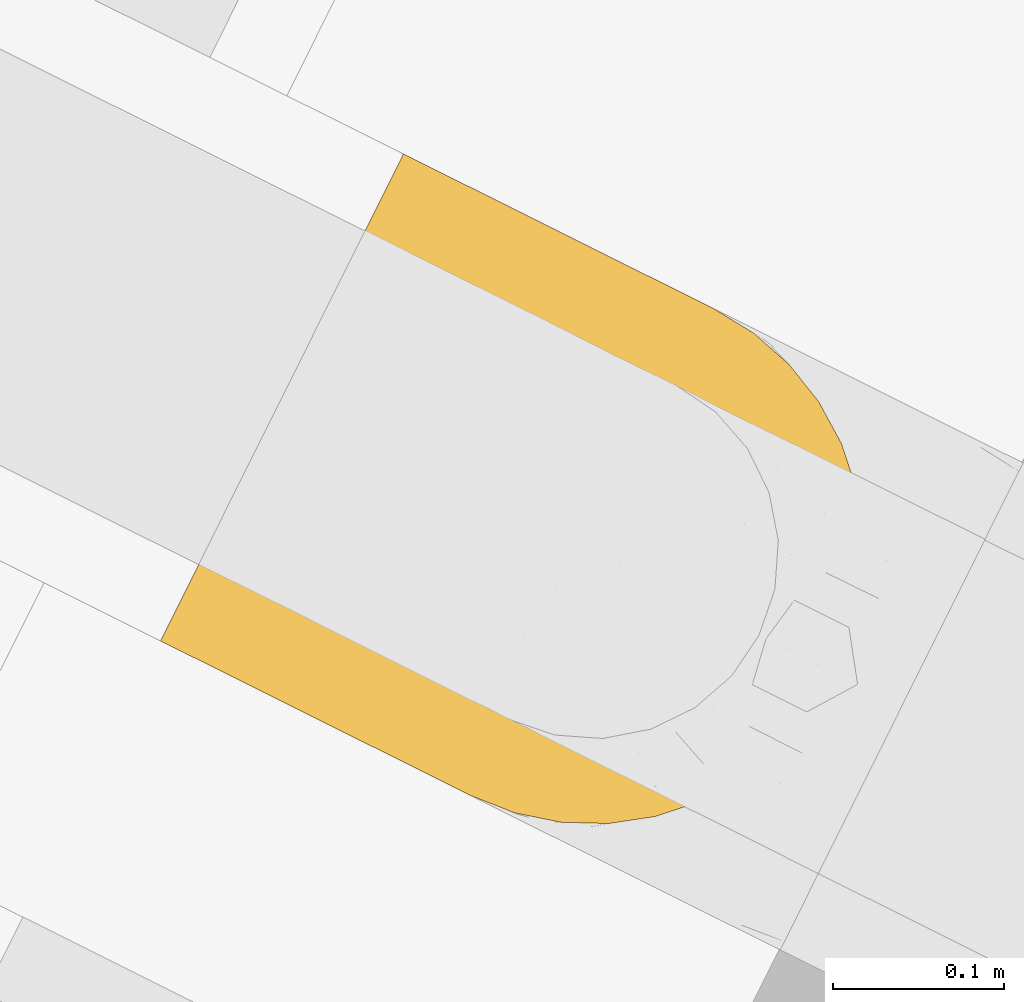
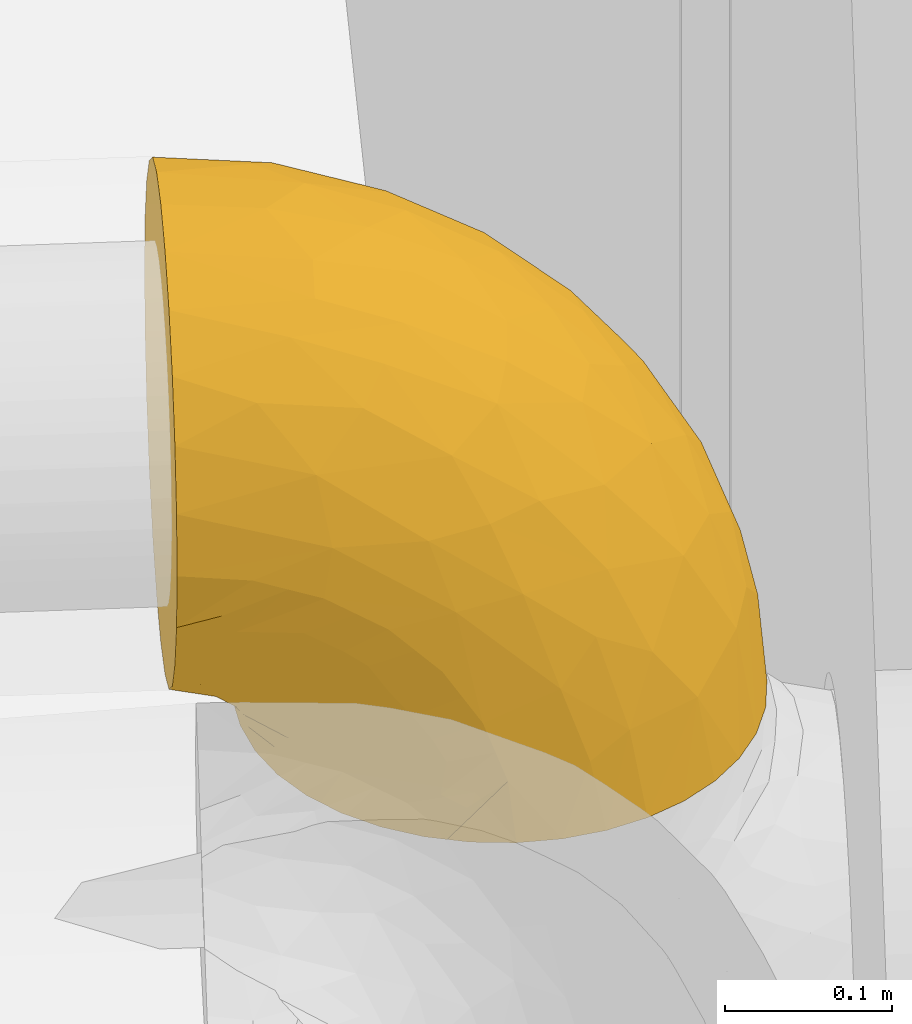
# One storey, part 47 of 91: 1 covering.
"""IFC2X3 building model written with IfcOpenShell, lengths in metres."""

from ifc_helpers import new_model, entity, si_unit, converted_unit, derived_unit, direction, frame, origin, place, context, subcontext, project, spatial, faceted_brep, element, save


model = new_model("IFC2X3")

# Units and contexts
model_context = context("Model", 3, precision=1e-05, world=origin(), true_north=direction((0.894925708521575, 0.446215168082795)))
context_of_model = context(None, 3, precision=1e-05, world=origin(), true_north=direction((0.894925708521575, 0.446215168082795)))
body_context = subcontext(model_context, "Body", "Model", "MODEL_VIEW")
ifc_project = project(units=[si_unit("LENGTHUNIT", "METRE"), si_unit("AREAUNIT", "SQUARE_METRE"), si_unit("VOLUMEUNIT", "CUBIC_METRE"), converted_unit("PLANEANGLEUNIT", "DEGREE", entity("IfcRatioMeasure", 0.0174532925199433), si_unit("PLANEANGLEUNIT", "RADIAN"), dimensions=[0, 0, 0, 0, 0, 0, 0]), si_unit("MASSUNIT", "GRAM", prefix="KILO"), si_unit("TIMEUNIT", "SECOND"), si_unit("FREQUENCYUNIT", "HERTZ"), si_unit("THERMODYNAMICTEMPERATUREUNIT", "DEGREE_CELSIUS"), derived_unit("THERMALTRANSMITTANCEUNIT", [(si_unit("MASSUNIT", "GRAM", prefix="KILO"), 1), (si_unit("THERMODYNAMICTEMPERATUREUNIT", "KELVIN"), -1), (si_unit("TIMEUNIT", "SECOND"), -3)]), derived_unit("VOLUMETRICFLOWRATEUNIT", [(si_unit("LENGTHUNIT", "METRE"), 3), (si_unit("TIMEUNIT", "SECOND"), -1)]), si_unit("ELECTRICCURRENTUNIT", "AMPERE"), si_unit("ELECTRICVOLTAGEUNIT", "VOLT"), si_unit("POWERUNIT", "WATT"), si_unit("FORCEUNIT", "NEWTON", prefix="KILO"), si_unit("ILLUMINANCEUNIT", "LUX"), si_unit("LUMINOUSFLUXUNIT", "LUMEN"), si_unit("LUMINOUSINTENSITYUNIT", "CANDELA"), si_unit("PRESSUREUNIT", "PASCAL")], contexts=[model_context, context_of_model])

# Site, building, storey
site_placement = place(None, frame((218.228324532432, 584.720189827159, 0.0), z_axis=(0.0, 0.0, 1.0), x_axis=(0.446215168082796, 0.894925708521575, 0.0)))
site = spatial("IfcSite", under=ifc_project, at=site_placement, Name="Default", CompositionType="ELEMENT")
building_placement = place(site_placement, origin())
building = spatial("IfcBuilding", under=site, at=building_placement, CompositionType="ELEMENT")
storey_placement = place(building_placement, origin())
storey = spatial("IfcBuildingStorey", under=building, at=storey_placement, Name="0 - Piano Terra", CompositionType="ELEMENT", Elevation=0.0)

# Covering
covering_placement = place(storey_placement, frame((-30.3033657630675, -4.9598908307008, 2.8714047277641)))
element("IfcCovering", 1, at=covering_placement, inside=storey, Name="Isolamento tubazione:Default", ObjectType="Isolamento tubazione:Default", PredefinedType="INSULATION", context=body_context, shape_type="Brep", body=[
    faceted_brep([(0.311074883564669, 0.215710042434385, 0.00159527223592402), (0.318272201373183, 0.18884600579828, 0.00159527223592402), (0.319748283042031, 0.171971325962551, 0.00159527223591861), (0.320695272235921, 0.161145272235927, 0.00159527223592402), (0.318271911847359, 0.133442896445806, 0.00159527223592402), (0.311073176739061, 0.106575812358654, 0.00159527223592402), (0.29931755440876, 0.0813666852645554, 0.00159527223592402), (0.283365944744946, 0.0585864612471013, 0.00159527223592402), (0.263703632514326, 0.0389242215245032, 0.00159527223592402), (0.240919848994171, 0.0229706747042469, 0.00159527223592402), (0.21571004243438, 0.0112156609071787, 0.00159527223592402), (0.188846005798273, 0.00401834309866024, 0.00159527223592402), (0.161145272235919, 0.00159527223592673, 0.00159527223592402), (0.133442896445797, 0.00401863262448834, 0.00159527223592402), (0.106575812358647, 0.0112173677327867, 0.00159527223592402), (0.0813666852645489, 0.0229729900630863, 0.00159527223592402), (0.0585864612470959, 0.038924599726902, 0.00159527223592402), (0.0389242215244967, 0.0585869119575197, 0.00159527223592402), (0.0229706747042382, 0.0813706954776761, 0.00159527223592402), (0.0112156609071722, 0.106580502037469, 0.00159527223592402), (0.00401834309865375, 0.133444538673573, 0.00159527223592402), (0.00159527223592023, 0.161145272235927, 0.00159527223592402), (0.00254231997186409, 0.17197134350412, 0.00159527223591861), (0.0040186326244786, 0.188847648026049, 0.00159527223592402), (0.00761800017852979, 0.202281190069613, 0.00159527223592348), (0.0112173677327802, 0.2157147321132, 0.00159527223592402), (0.0229729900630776, 0.2409238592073, 0.00159527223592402), (0.0389245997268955, 0.263704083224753, 0.00159527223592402), (0.058586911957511, 0.283366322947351, 0.00159527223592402), (0.0813706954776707, 0.299319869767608, 0.00159527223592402), (0.106580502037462, 0.311074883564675, 0.00159527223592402), (0.133444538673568, 0.318272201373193, 0.00159527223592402), (0.161145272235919, 0.320695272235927, 0.00159527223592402), (0.18884764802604, 0.318271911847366, 0.00159527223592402), (0.21571473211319, 0.311073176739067, 0.00159527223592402), (0.240923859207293, 0.299317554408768, 0.00159527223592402), (0.263704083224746, 0.283365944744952, 0.00159527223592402), (0.283366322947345, 0.263703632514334, 0.00159527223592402), (0.299319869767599, 0.240919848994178, 0.00159527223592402), (0.0483263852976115, 0.364145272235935, 0.0917763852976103), (0.0356486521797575, 0.364145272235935, 0.108298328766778), (0.0229709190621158, 0.364145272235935, 0.124820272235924), (0.0150013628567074, 0.364145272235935, 0.144060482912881), (0.00703180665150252, 0.364145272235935, 0.163300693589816), (0.00448125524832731, 0.364145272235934, 0.182674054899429), (0.00303826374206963, 0.364145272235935, 0.193634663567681), (0.00159527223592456, 0.364145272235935, 0.204595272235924), (0.00703180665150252, 0.364145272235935, 0.245889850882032), (0.0229709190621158, 0.364145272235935, 0.284370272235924), (0.0483263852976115, 0.364145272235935, 0.317414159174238), (0.0813702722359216, 0.364145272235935, 0.342769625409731), (0.119850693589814, 0.364145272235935, 0.358708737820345), (0.161145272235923, 0.364145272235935, 0.364145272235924), (0.202439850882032, 0.364145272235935, 0.358708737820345), (0.240920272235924, 0.364145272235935, 0.342769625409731), (0.273964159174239, 0.364145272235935, 0.317414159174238), (0.29931962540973, 0.364145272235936, 0.284370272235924), (0.315258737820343, 0.364145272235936, 0.245889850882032), (0.320695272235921, 0.364145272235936, 0.204595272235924), (0.31925228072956, 0.364145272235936, 0.193634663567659), (0.317809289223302, 0.364145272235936, 0.182674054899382), (0.315258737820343, 0.364145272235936, 0.163300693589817), (0.307289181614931, 0.364145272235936, 0.144060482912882), (0.29931962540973, 0.364145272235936, 0.124820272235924), (0.286641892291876, 0.364145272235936, 0.108298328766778), (0.273964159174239, 0.364145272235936, 0.0917763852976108), (0.240920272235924, 0.364145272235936, 0.0664209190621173), (0.202439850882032, 0.364145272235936, 0.0504818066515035), (0.161145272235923, 0.364145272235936, 0.0450452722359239), (0.119850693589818, 0.364145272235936, 0.0504818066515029), (0.0813702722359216, 0.364145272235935, 0.0664209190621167), (0.0648483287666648, 0.364145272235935, 0.0790986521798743), (0.201172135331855, 0.275645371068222, 0.347913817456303), (0.161145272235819, 0.301189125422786, 0.358637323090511), (0.161145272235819, 0.240145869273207, 0.342280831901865), (0.306467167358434, 0.192702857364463, 0.208704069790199), (0.317175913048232, 0.197037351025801, 0.168703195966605), (0.312260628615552, 0.257674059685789, 0.232411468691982), (0.320695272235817, 0.2375768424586, 0.160307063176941), (0.320695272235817, 0.256821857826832, 0.172399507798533), (0.320695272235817, 0.276066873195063, 0.184491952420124), (0.228888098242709, 0.223051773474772, 0.319112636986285), (0.198715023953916, 0.21516407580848, 0.327193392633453), (0.197144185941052, 0.159526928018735, 0.295886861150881), (0.265288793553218, 0.0926591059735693, 0.178199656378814), (0.279139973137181, 0.144663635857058, 0.221076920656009), (0.251711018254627, 0.130966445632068, 0.241221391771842), (0.227840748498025, 0.305777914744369, 0.344605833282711), (0.283559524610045, 0.314219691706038, 0.302813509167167), (0.309327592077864, 0.149883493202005, 0.152632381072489), (0.161145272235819, 0.182870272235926, 0.315572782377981), (0.161145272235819, 0.131102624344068, 0.279324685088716), (0.188773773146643, 0.109488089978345, 0.256252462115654), (0.161145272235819, 0.0864158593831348, 0.234637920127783), (0.320695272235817, 0.166234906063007, 0.0467670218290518), (0.317175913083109, 0.146967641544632, 0.094783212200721), (0.277616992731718, 0.250140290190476, 0.292067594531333), (0.296288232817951, 0.22901119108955, 0.25570716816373), (0.30429953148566, 0.301075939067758, 0.267671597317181), (0.222697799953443, 0.0236515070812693, 0.0834683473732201), (0.198695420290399, 0.0385683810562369, 0.150634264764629), (0.19067392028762, 0.0156740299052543, 0.0911457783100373), (0.320695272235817, 0.318973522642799, 0.199505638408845), (0.320695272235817, 0.341788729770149, 0.202076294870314), (0.320695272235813, 0.352967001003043, 0.203335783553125), (0.252196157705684, 0.292024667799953, 0.327735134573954), (0.161145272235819, 0.0234597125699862, 0.125594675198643), (0.161145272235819, 0.0501677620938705, 0.182870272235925), (0.320695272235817, 0.297520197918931, 0.191998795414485), (0.301023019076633, 0.0922467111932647, 0.067403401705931), (0.21956288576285, 0.115617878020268, 0.250122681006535), (0.204386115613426, 0.0731547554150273, 0.207684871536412), (0.233310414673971, 0.0846018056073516, 0.204290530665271), (0.282350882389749, 0.0773627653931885, 0.11047740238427), (0.268310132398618, 0.0495812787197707, 0.0665622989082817), (0.289509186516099, 0.114293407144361, 0.163562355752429), (0.239797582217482, 0.0561833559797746, 0.149912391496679), (0.161145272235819, 0.00710322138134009, 0.064551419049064), (0.320695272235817, 0.162404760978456, 0.0127735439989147), (0.320695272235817, 0.163664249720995, 0.023951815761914), (0.320695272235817, 0.181248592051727, 0.0896736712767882), (0.320695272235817, 0.193341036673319, 0.10891868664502), (0.320695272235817, 0.205433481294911, 0.128163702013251), (0.320695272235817, 0.173741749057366, 0.0682203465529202), (0.320695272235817, 0.221505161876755, 0.144235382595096), (0.234514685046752, 0.166460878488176, 0.283951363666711), (0.267559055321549, 0.185436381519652, 0.269306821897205), (0.255020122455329, 0.223925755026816, 0.30254289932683), (0.193767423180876, 0.324911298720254, 0.0271465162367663), (0.317837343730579, 0.337277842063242, 0.172432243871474), (0.302389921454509, 0.237558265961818, 0.0253498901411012), (0.315096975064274, 0.328080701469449, 0.158613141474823), (0.290371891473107, 0.267743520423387, 0.0533645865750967), (0.268216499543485, 0.282779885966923, 0.0251720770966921), (0.272627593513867, 0.287013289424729, 0.045717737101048), (0.315587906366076, 0.270555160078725, 0.134992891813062), (0.31321863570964, 0.258245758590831, 0.114409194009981), (0.302643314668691, 0.285245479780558, 0.104008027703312), (0.314805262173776, 0.210134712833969, 0.0451423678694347), (0.242685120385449, 0.334476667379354, 0.0603938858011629), (0.267865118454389, 0.339736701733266, 0.0823838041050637), (0.26945072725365, 0.319015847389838, 0.0746164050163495), (0.296967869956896, 0.253348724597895, 0.0457848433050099), (0.310493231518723, 0.242127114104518, 0.0833280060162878), (0.315769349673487, 0.217507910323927, 0.0742742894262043), (0.263416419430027, 0.303705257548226, 0.0548255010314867), (0.292249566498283, 0.275276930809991, 0.0698784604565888), (0.246211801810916, 0.30110672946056, 0.0271436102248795), (0.289082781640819, 0.311576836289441, 0.0955577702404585), (0.203370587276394, 0.339341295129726, 0.0440145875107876), (0.224672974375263, 0.319512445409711, 0.0364709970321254), (0.317566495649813, 0.23262403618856, 0.111751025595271), (0.31854887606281, 0.217038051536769, 0.0998764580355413), (0.213089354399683, 0.314843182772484, 0.0185697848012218), (0.317379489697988, 0.196765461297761, 0.0347995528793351), (0.286225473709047, 0.295924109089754, 0.0800249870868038), (0.291795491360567, 0.344962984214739, 0.111352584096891), (0.161145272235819, 0.326516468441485, 0.023320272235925), (0.161145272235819, 0.342420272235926, 0.0392240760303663), (0.291152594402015, 0.329719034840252, 0.106606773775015), (0.317781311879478, 0.29329998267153, 0.159036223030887), (0.314129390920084, 0.289482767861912, 0.14050134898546), (0.305217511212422, 0.297029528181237, 0.118092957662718), (0.3083110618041, 0.315309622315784, 0.13426083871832), (0.309107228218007, 0.255196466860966, 0.0946896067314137), (0.304103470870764, 0.339551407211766, 0.13144064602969), (0.0481611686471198, 0.280281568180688, 0.0352015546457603), (0.030190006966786, 0.274410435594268, 0.0683770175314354), (0.0185577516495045, 0.247884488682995, 0.0628508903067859), (0.130051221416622, 0.323578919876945, 0.0243434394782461), (0.119520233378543, 0.336527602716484, 0.0420410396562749), (0.0579185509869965, 0.343779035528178, 0.0803473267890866), (0.0377646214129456, 0.338896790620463, 0.100255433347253), (0.0138743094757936, 0.267508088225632, 0.10512095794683), (0.00429194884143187, 0.249727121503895, 0.132405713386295), (0.0131660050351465, 0.288664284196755, 0.123461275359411), (0.00537209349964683, 0.223062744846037, 0.0937077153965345), (0.0150970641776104, 0.257122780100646, 0.0899238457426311), (0.00159527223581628, 0.193341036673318, 0.108918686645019), (0.00497002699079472, 0.211214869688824, 0.0766563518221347), (0.00159527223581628, 0.318973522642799, 0.199505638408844), (0.00159527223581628, 0.341788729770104, 0.202076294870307), (0.00159527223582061, 0.352967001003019, 0.203335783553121), (0.0564962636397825, 0.32702504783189, 0.0753443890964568), (0.0378033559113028, 0.320742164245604, 0.0936706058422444), (0.00445320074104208, 0.337277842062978, 0.17243224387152), (0.110600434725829, 0.314621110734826, 0.0163235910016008), (0.078110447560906, 0.301284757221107, 0.0240766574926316), (0.100177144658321, 0.318085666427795, 0.0326633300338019), (0.0143592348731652, 0.316513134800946, 0.133742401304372), (0.0184044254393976, 0.340160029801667, 0.131110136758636), (0.056848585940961, 0.294403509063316, 0.0452142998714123), (0.00159527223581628, 0.297520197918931, 0.191998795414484), (0.0365446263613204, 0.3020611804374, 0.0842148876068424), (0.00719356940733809, 0.328080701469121, 0.158613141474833), (0.00159527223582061, 0.16240476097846, 0.0127735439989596), (0.00159527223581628, 0.163664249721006, 0.0239518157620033), (0.00159527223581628, 0.166234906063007, 0.0467670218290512), (0.0326636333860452, 0.259460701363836, 0.0297424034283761), (0.00538278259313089, 0.237066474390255, 0.112156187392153), (0.00159527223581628, 0.221505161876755, 0.144235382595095), (0.0136433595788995, 0.228265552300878, 0.0434416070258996), (0.0807011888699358, 0.336132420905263, 0.0604863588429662), (0.00159527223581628, 0.181248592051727, 0.0896736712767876), (0.00159527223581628, 0.173741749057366, 0.0682203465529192), (0.00401153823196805, 0.190630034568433, 0.0268111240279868), (0.00708777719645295, 0.206112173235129, 0.0348646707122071), (0.00434202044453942, 0.264351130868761, 0.143549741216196), (0.00159527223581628, 0.276066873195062, 0.184491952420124), (0.0809621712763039, 0.320790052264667, 0.050107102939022), (0.0539826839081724, 0.304186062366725, 0.0615545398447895), (0.0046853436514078, 0.202773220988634, 0.0603958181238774), (0.00426342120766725, 0.288174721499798, 0.15807138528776), (0.00159527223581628, 0.20543348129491, 0.12816370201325), (0.00159527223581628, 0.2375768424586, 0.16030706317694), (0.00159527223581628, 0.256821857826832, 0.172399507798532), (0.00511463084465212, 0.197037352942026, 0.168703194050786), (0.133516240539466, 0.10948815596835, 0.256252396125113), (0.117903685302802, 0.0731551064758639, 0.207685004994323), (0.0185835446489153, 0.279870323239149, 0.262986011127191), (0.0446735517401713, 0.250140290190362, 0.292067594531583), (0.0387310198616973, 0.314219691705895, 0.302813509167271), (0.00511463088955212, 0.270957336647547, 0.218772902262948), (0.0539801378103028, 0.0495818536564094, 0.0665638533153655), (0.0212654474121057, 0.0922510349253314, 0.067405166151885), (0.00960242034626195, 0.13430515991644, 0.107126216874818), (0.0705791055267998, 0.104351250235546, 0.212070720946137), (0.0431505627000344, 0.144663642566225, 0.221076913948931), (0.0425043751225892, 0.104304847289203, 0.170072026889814), (0.102726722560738, 0.115618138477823, 0.250122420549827), (0.0713886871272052, 0.168429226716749, 0.273365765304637), (0.125145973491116, 0.159526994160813, 0.295886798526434), (0.0946001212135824, 0.276041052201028, 0.338268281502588), (0.070094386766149, 0.292024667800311, 0.327735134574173), (0.131839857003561, 0.214728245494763, 0.328942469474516), (0.0972173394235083, 0.161374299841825, 0.285870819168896), (0.093402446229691, 0.223051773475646, 0.319112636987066), (0.121118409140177, 0.27564537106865, 0.347913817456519), (0.0255526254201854, 0.175378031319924, 0.217897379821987), (0.00962930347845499, 0.116541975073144, 0.0535290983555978), (0.0673614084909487, 0.23633617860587, 0.308091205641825), (0.0824907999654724, 0.0561838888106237, 0.149910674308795), (0.0995884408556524, 0.0236528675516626, 0.0834663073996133), (0.123593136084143, 0.0385687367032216, 0.150633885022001), (0.0129629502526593, 0.213108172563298, 0.21585705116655), (0.0397068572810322, 0.197487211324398, 0.258806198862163), (0.0399379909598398, 0.0773644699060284, 0.110476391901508), (0.131613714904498, 0.0156734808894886, 0.0911414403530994), (0.0159523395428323, 0.156378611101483, 0.17268666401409), (0.0240614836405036, 0.112245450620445, 0.1341223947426)], [[[0, 1, 2, 3, 4, 5, 6, 7, 8, 9, 10, 11, 12, 13, 14, 15, 16, 17, 18, 19, 20, 21, 22, 23, 24, 25, 26, 27, 28, 29, 30, 31, 32, 33, 34, 35, 36, 37, 38]], [[39, 40, 41, 42, 43, 44, 45, 46, 47, 48, 49, 50, 51, 52, 53, 54, 55, 56, 57, 58, 59, 60, 61, 62, 63, 64, 65, 66, 67, 68, 69, 70, 71]], [[72, 73, 74]], [[73, 53, 52]], [[75, 76, 77]], [[76, 78, 79, 80]], [[81, 82, 83]], [[84, 85, 86]], [[87, 53, 72]], [[88, 56, 55]], [[89, 76, 75]], [[83, 82, 90]], [[91, 83, 90]], [[92, 91, 93]], [[4, 94, 95]], [[96, 97, 98]], [[99, 100, 101]], [[57, 102, 103, 104, 58]], [[55, 54, 105]], [[106, 100, 107]], [[98, 57, 56]], [[77, 80, 108, 102]], [[6, 5, 109]], [[102, 57, 77]], [[110, 111, 112]], [[89, 95, 76]], [[76, 80, 77]], [[91, 92, 83]], [[109, 113, 114]], [[115, 109, 89]], [[111, 107, 100]], [[109, 4, 95]], [[9, 99, 10]], [[105, 96, 88]], [[11, 10, 101]], [[99, 9, 114]], [[99, 114, 116]], [[99, 101, 10]], [[82, 81, 72]], [[8, 114, 9]], [[113, 116, 114]], [[117, 12, 11]], [[117, 101, 106]], [[114, 7, 6]], [[4, 3, 118, 119, 94]], [[95, 120, 121, 122]], [[110, 112, 86]], [[85, 84, 115]], [[85, 75, 97]], [[95, 94, 123, 120]], [[116, 112, 111]], [[76, 95, 122]], [[53, 73, 72]], [[76, 122, 124, 78]], [[99, 116, 100]], [[7, 114, 8]], [[6, 109, 114]], [[81, 105, 87]], [[125, 83, 110]], [[92, 111, 110]], [[4, 109, 5]], [[125, 126, 127]], [[89, 109, 95]], [[97, 75, 77]], [[115, 75, 85]], [[98, 97, 77]], [[97, 96, 126]], [[93, 107, 111]], [[83, 92, 110]], [[111, 92, 93]], [[116, 111, 100]], [[57, 98, 77]], [[98, 56, 88]], [[87, 105, 54]], [[105, 81, 127]], [[84, 112, 116]], [[112, 84, 86]], [[116, 113, 84]], [[115, 84, 113]], [[126, 86, 85]], [[125, 110, 86]], [[97, 126, 85]], [[127, 126, 96]], [[126, 125, 86]], [[83, 125, 81]], [[109, 115, 113]], [[75, 115, 89]], [[105, 127, 96]], [[125, 127, 81]], [[106, 101, 100]], [[11, 101, 117]], [[105, 88, 55]], [[98, 88, 96]], [[72, 74, 82]], [[90, 82, 74]], [[53, 87, 54]], [[81, 87, 72]], [[104, 103, 102, 61, 60, 59, 58]], [[33, 32, 128]], [[61, 129, 62]], [[130, 38, 37]], [[63, 62, 131]], [[102, 129, 61]], [[132, 133, 134]], [[135, 136, 137]], [[130, 138, 38]], [[139, 140, 141]], [[142, 143, 144]], [[134, 145, 146]], [[147, 35, 34]], [[141, 140, 148]], [[149, 68, 67]], [[67, 66, 139]], [[142, 36, 133]], [[134, 133, 147]], [[150, 128, 149]], [[136, 124, 151]], [[151, 122, 152]], [[147, 153, 150]], [[142, 37, 36]], [[34, 153, 147]], [[94, 0, 154]], [[138, 123, 154]], [[119, 118, 3, 2, 1, 94]], [[149, 67, 139]], [[145, 155, 146]], [[94, 1, 0]], [[156, 65, 64]], [[138, 130, 144]], [[157, 128, 32]], [[150, 153, 128]], [[154, 38, 138]], [[138, 120, 123]], [[149, 128, 158]], [[35, 133, 36]], [[35, 147, 133]], [[34, 33, 153]], [[145, 147, 150]], [[159, 148, 140]], [[144, 120, 138]], [[160, 131, 80]], [[161, 135, 162]], [[108, 131, 129]], [[80, 131, 108]], [[159, 156, 163]], [[150, 139, 145]], [[155, 141, 148]], [[142, 132, 143]], [[152, 144, 143]], [[108, 129, 102]], [[131, 62, 129]], [[33, 128, 153]], [[158, 128, 157]], [[149, 158, 68]], [[139, 150, 149]], [[164, 136, 151]], [[144, 152, 121]], [[164, 155, 137]], [[135, 78, 136]], [[145, 134, 147]], [[132, 134, 146]], [[143, 132, 146]], [[133, 132, 142]], [[37, 142, 130]], [[144, 130, 142]], [[141, 145, 139]], [[137, 155, 148]], [[137, 162, 135]], [[137, 136, 164]], [[162, 137, 148]], [[159, 162, 148]], [[160, 79, 161]], [[79, 78, 135]], [[161, 162, 163]], [[160, 161, 163]], [[79, 135, 161]], [[160, 163, 165]], [[79, 160, 80]], [[145, 141, 155]], [[140, 139, 66]], [[66, 65, 140]], [[159, 163, 162]], [[140, 65, 159]], [[63, 165, 64]], [[156, 159, 65]], [[63, 131, 165]], [[160, 165, 131]], [[64, 165, 156]], [[163, 156, 165]], [[121, 152, 122]], [[121, 120, 144]], [[151, 152, 143]], [[164, 151, 143]], [[143, 146, 164]], [[124, 136, 78]], [[124, 122, 151]], [[164, 146, 155]], [[94, 154, 123]], [[38, 154, 0]], [[28, 166, 29]], [[167, 166, 168]], [[158, 169, 170]], [[71, 171, 172]], [[158, 157, 169]], [[173, 174, 175]], [[168, 176, 177]], [[170, 68, 158]], [[178, 176, 179]], [[171, 71, 70]], [[45, 44, 43, 180, 181, 182, 46]], [[171, 183, 184]], [[43, 42, 185]], [[186, 187, 188]], [[172, 39, 71]], [[189, 190, 172]], [[191, 188, 187]], [[185, 192, 180]], [[191, 187, 166]], [[184, 183, 193]], [[31, 30, 186]], [[194, 42, 41]], [[22, 21, 195, 196, 197, 23]], [[187, 30, 29]], [[166, 187, 29]], [[28, 198, 166]], [[199, 200, 174]], [[27, 26, 201]], [[27, 198, 28]], [[186, 169, 31]], [[70, 69, 202]], [[203, 178, 179]], [[201, 168, 198]], [[204, 205, 197]], [[204, 206, 205]], [[175, 184, 193]], [[205, 24, 197]], [[174, 207, 175]], [[194, 208, 192]], [[68, 170, 69]], [[183, 209, 210]], [[166, 198, 168]], [[169, 32, 31]], [[167, 210, 191]], [[201, 198, 27]], [[203, 179, 211]], [[25, 206, 26]], [[185, 180, 43]], [[172, 190, 40]], [[194, 189, 212]], [[187, 186, 30]], [[169, 186, 188]], [[169, 188, 170]], [[169, 157, 32]], [[209, 170, 188]], [[69, 170, 202]], [[42, 194, 185]], [[192, 185, 194]], [[211, 204, 203]], [[201, 26, 206]], [[177, 176, 199]], [[193, 167, 173]], [[199, 176, 213]], [[213, 176, 178]], [[179, 168, 201]], [[200, 214, 174]], [[177, 199, 173]], [[199, 213, 200]], [[168, 179, 176]], [[179, 201, 211]], [[201, 206, 211]], [[204, 211, 206]], [[212, 175, 207]], [[199, 174, 173]], [[207, 174, 214]], [[172, 175, 189]], [[214, 215, 207]], [[208, 212, 215]], [[207, 215, 212]], [[194, 212, 208]], [[212, 189, 175]], [[167, 191, 166]], [[191, 210, 209]], [[24, 205, 25]], [[24, 23, 197]], [[206, 25, 205]], [[202, 183, 171]], [[202, 171, 70]], [[171, 184, 172]], [[175, 172, 184]], [[190, 41, 40]], [[190, 194, 41]], [[39, 172, 40]], [[194, 190, 189]], [[209, 183, 202]], [[193, 183, 210]], [[167, 193, 210]], [[175, 193, 173]], [[170, 209, 202]], [[191, 209, 188]], [[173, 167, 177]], [[168, 177, 167]], [[216, 208, 215, 214]], [[93, 217, 218]], [[219, 220, 221]], [[222, 46, 182, 181, 180]], [[222, 208, 216]], [[223, 224, 18]], [[203, 225, 216]], [[226, 227, 228]], [[18, 224, 19]], [[216, 214, 200, 213]], [[229, 230, 226]], [[217, 231, 229]], [[232, 50, 233]], [[90, 74, 234]], [[73, 52, 51]], [[223, 16, 15]], [[49, 48, 221]], [[235, 236, 230]], [[49, 233, 50]], [[74, 73, 237]], [[227, 238, 228]], [[236, 231, 234]], [[20, 19, 239]], [[234, 74, 237]], [[233, 240, 236]], [[231, 91, 90]], [[225, 203, 204, 197]], [[241, 242, 243]], [[222, 180, 192, 208]], [[107, 93, 218]], [[239, 197, 20]], [[20, 197, 196, 195, 21]], [[232, 51, 50]], [[244, 222, 216]], [[47, 222, 219]], [[245, 230, 240]], [[246, 224, 223]], [[243, 106, 107]], [[48, 47, 219]], [[18, 17, 223]], [[73, 51, 237]], [[15, 242, 223]], [[16, 223, 17]], [[247, 243, 242]], [[15, 14, 242]], [[243, 218, 241]], [[106, 243, 247]], [[91, 217, 93]], [[247, 13, 117]], [[46, 222, 47]], [[12, 117, 13]], [[248, 216, 225]], [[219, 222, 244]], [[242, 241, 223]], [[228, 248, 249]], [[244, 245, 219]], [[14, 13, 247]], [[244, 216, 248]], [[245, 244, 238]], [[216, 213, 178, 203]], [[241, 246, 223]], [[249, 224, 246]], [[239, 224, 225]], [[249, 225, 224]], [[238, 244, 248]], [[231, 217, 91]], [[218, 217, 229]], [[218, 229, 226]], [[107, 218, 243]], [[249, 246, 228]], [[248, 225, 249]], [[233, 49, 221]], [[232, 233, 236]], [[224, 239, 19]], [[197, 239, 225]], [[246, 241, 228]], [[231, 235, 229]], [[228, 241, 226]], [[218, 226, 241]], [[230, 236, 240]], [[227, 226, 230]], [[228, 238, 248]], [[245, 238, 227]], [[230, 245, 227]], [[219, 245, 220]], [[247, 242, 14]], [[106, 247, 117]], [[219, 221, 48]], [[233, 221, 220]], [[236, 234, 237]], [[90, 234, 231]], [[233, 220, 240]], [[240, 220, 245]], [[236, 237, 232]], [[232, 237, 51]], [[236, 235, 231]], [[230, 229, 235]]]),
])

save(model, "model.ifc")
